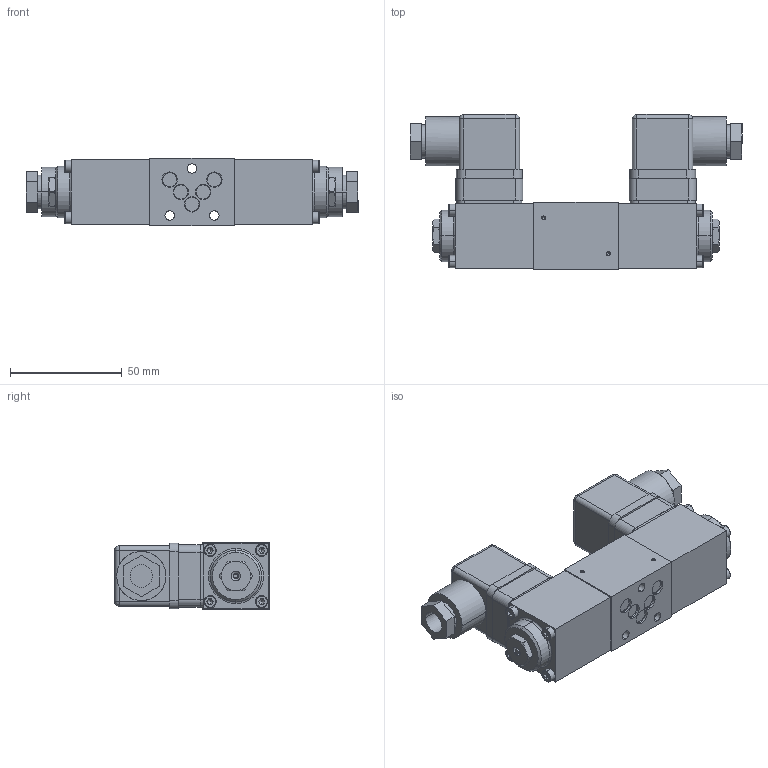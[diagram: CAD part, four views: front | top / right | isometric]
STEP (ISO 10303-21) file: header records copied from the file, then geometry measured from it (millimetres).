
FILE_DESCRIPTION (( 'STEP AP214' ), '1' );
FILE_NAME ('WDPFA03-4_3.STEP', '2017-03-07T13:54:27', ( '' ), ( '' ), 'SwSTEP 2.0', 'SolidWorks 2016', '' );
FILE_SCHEMA (( 'AUTOMOTIVE_DESIGN' ));
Length unit declared in the file: millimetre
Products named in the file (1): WDPFA03-4_3
Bounding box: 148.5 x 69.3 x 30 mm (x, y, z)
Volume: 159007.4 mm3; surface area: 51982.7 mm2
Topology: 14 solids, 34 shells, 1638 faces, 4289 edges, 2758 vertices
Faces by surface type: plane 962, cylinder 464, cone 125, torus 46, bspline 37, sphere 4
Entity records: 70186 total; most frequent: CARTESIAN_POINT 11082, DIRECTION 8672, ORIENTED_EDGE 8474, EDGE_CURVE 4237, AXIS2_PLACEMENT_3D 3000, VERTEX_POINT 2758, LINE 2672, VECTOR 2672
